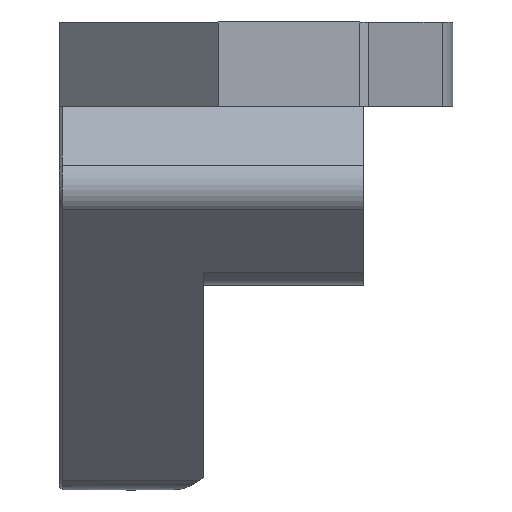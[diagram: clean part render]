
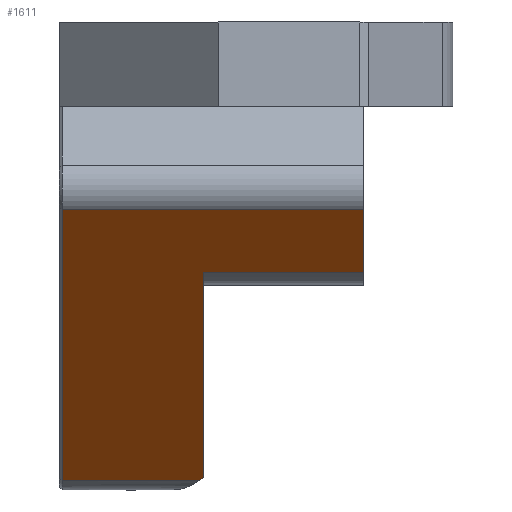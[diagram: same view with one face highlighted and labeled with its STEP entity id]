
A CAD part, left-side view. The second image highlights one B-rep face of the part: STEP entity #1611.
In plain terms, the highlighted planar face has unit normal (-0.707, 0, -0.707).
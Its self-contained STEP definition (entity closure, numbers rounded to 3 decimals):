
#23=ELLIPSE('',#1662,16.546,11.7);
#152=PLANE('',#1733);
#248=LINE('',#3252,#373);
#254=LINE('',#3266,#379);
#255=LINE('',#3271,#380);
#256=LINE('',#3272,#381);
#257=LINE('',#3273,#382);
#258=LINE('',#3274,#383);
#373=VECTOR('',#2011,10.);
#379=VECTOR('',#2027,10.);
#380=VECTOR('',#2032,10.);
#381=VECTOR('',#2033,10.);
#382=VECTOR('',#2034,10.);
#383=VECTOR('',#2035,10.);
#469=FACE_OUTER_BOUND('',#580,.T.);
#580=EDGE_LOOP('',(#1364,#1365,#1366,#1367,#1368,#1369,#1370));
#723=VERTEX_POINT('',#2831);
#724=VERTEX_POINT('',#2833);
#800=VERTEX_POINT('',#3247);
#801=VERTEX_POINT('',#3251);
#804=VERTEX_POINT('',#3265);
#805=VERTEX_POINT('',#3269);
#806=VERTEX_POINT('',#3270);
#893=EDGE_CURVE('',#724,#723,#23,.T.);
#1001=EDGE_CURVE('',#800,#801,#248,.T.);
#1008=EDGE_CURVE('',#801,#804,#254,.T.);
#1010=EDGE_CURVE('',#805,#806,#255,.T.);
#1011=EDGE_CURVE('',#804,#805,#256,.T.);
#1012=EDGE_CURVE('',#724,#800,#257,.T.);
#1013=EDGE_CURVE('',#723,#806,#258,.T.);
#1364=ORIENTED_EDGE('',*,*,#1010,.F.);
#1365=ORIENTED_EDGE('',*,*,#1011,.F.);
#1366=ORIENTED_EDGE('',*,*,#1008,.F.);
#1367=ORIENTED_EDGE('',*,*,#1001,.F.);
#1368=ORIENTED_EDGE('',*,*,#1012,.F.);
#1369=ORIENTED_EDGE('',*,*,#893,.T.);
#1370=ORIENTED_EDGE('',*,*,#1013,.T.);
#1611=ADVANCED_FACE('',(#469),#152,.T.);
#1662=AXIS2_PLACEMENT_3D('',#2834,#1817,#1818);
#1733=AXIS2_PLACEMENT_3D('',#3268,#2030,#2031);
#1817=DIRECTION('center_axis',(0.707,0.,0.707));
#1818=DIRECTION('ref_axis',(0.707,0.,-0.707));
#2011=DIRECTION('',(-0.707,0.,0.707));
#2027=DIRECTION('',(0.,-1.,0.));
#2030=DIRECTION('center_axis',(-0.707,0.,
-0.707));
#2031=DIRECTION('ref_axis',(0.707,0.,-0.707));
#2032=DIRECTION('',(0.,1.,0.));
#2033=DIRECTION('',(0.707,0.,-0.707));
#2034=DIRECTION('',(0.,1.,0.));
#2035=DIRECTION('',(-0.707,0.,0.707));
#2831=CARTESIAN_POINT('',(22.698,42.458,-1.687));
#2833=CARTESIAN_POINT('',(22.898,42.745,-1.887));
#2834=CARTESIAN_POINT('Origin',(32.397,35.913,-11.385));
#3247=CARTESIAN_POINT('',(22.898,52.008,-1.887));
#3251=CARTESIAN_POINT('',(4.55,52.008,16.462));
#3252=CARTESIAN_POINT('',(10.867,52.008,10.145));
#3265=CARTESIAN_POINT('',(4.55,31.62,16.462));
#3266=CARTESIAN_POINT('',(4.55,40.858,16.462));
#3268=CARTESIAN_POINT('Origin',(4.55,51.908,16.462));
#3269=CARTESIAN_POINT('',(8.775,31.62,12.237));
#3270=CARTESIAN_POINT('',(8.775,42.458,12.237));
#3271=CARTESIAN_POINT('',(8.775,46.636,12.237));
#3272=CARTESIAN_POINT('',(10.867,31.62,10.145));
#3273=CARTESIAN_POINT('',(22.898,50.261,-1.887));
#3274=CARTESIAN_POINT('',(6.651,42.458,14.36));
